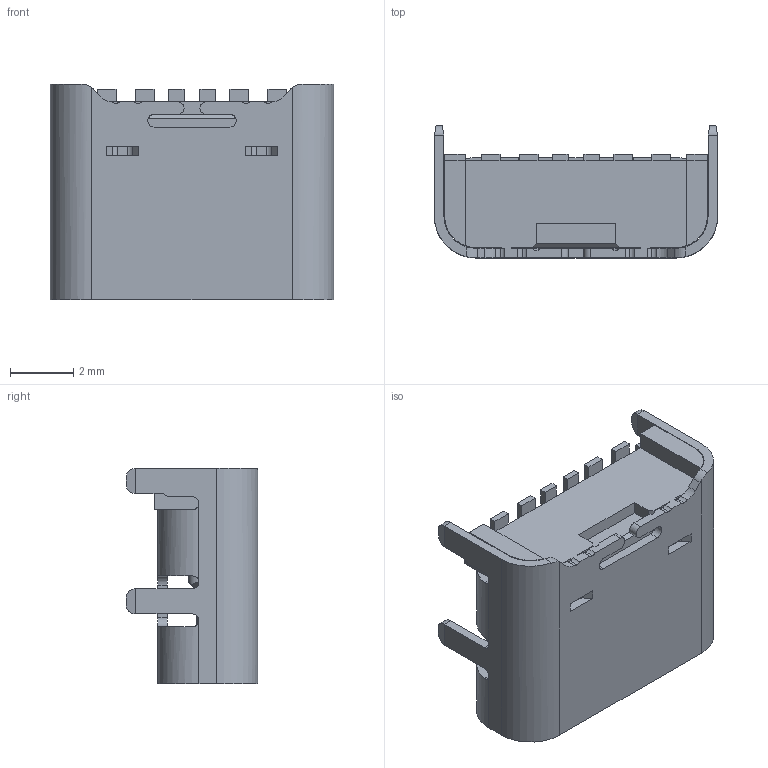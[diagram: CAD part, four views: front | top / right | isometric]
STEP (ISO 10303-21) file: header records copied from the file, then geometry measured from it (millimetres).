
FILE_DESCRIPTION((''),'2;1');
FILE_NAME('ASM0007_ASM00','2024-07-06T17:56:42',('Administrator'),(''),'CREO PARAMETRIC BY PTC INC, 2020053','CREO PARAMETRIC BY PTC INC, 2020053','');
FILE_SCHEMA(('AUTOMOTIVE_DESIGN { 1 0 10303 214 1 1 1 1 }'));
Length unit declared in the file: millimetre
Products named in the file (1): ASM0007_ASM00
Bounding box: 8.94 x 4.16 x 6.8 mm (x, y, z)
Surface area: 433 mm2 (no closed solid volume)
Topology: 0 solids, 1 shells, 537 faces, 1509 edges, 970 vertices
Faces by surface type: plane 393, cylinder 132, cone 8, torus 4
Entity records: 17727 total; most frequent: CARTESIAN_POINT 3393, ORIENTED_EDGE 3014, DIRECTION 2793, EDGE_CURVE 1509, VECTOR 1175, LINE 1175, VERTEX_POINT 970, AXIS2_PLACEMENT_3D 809
